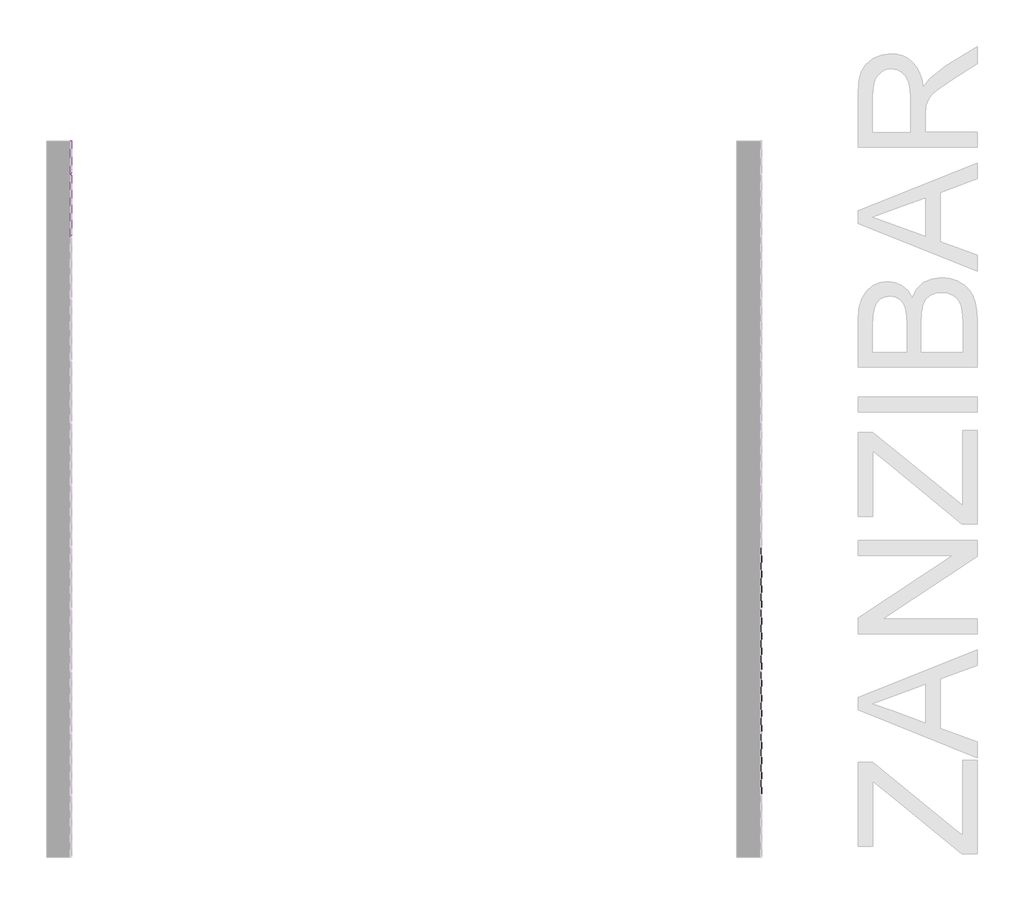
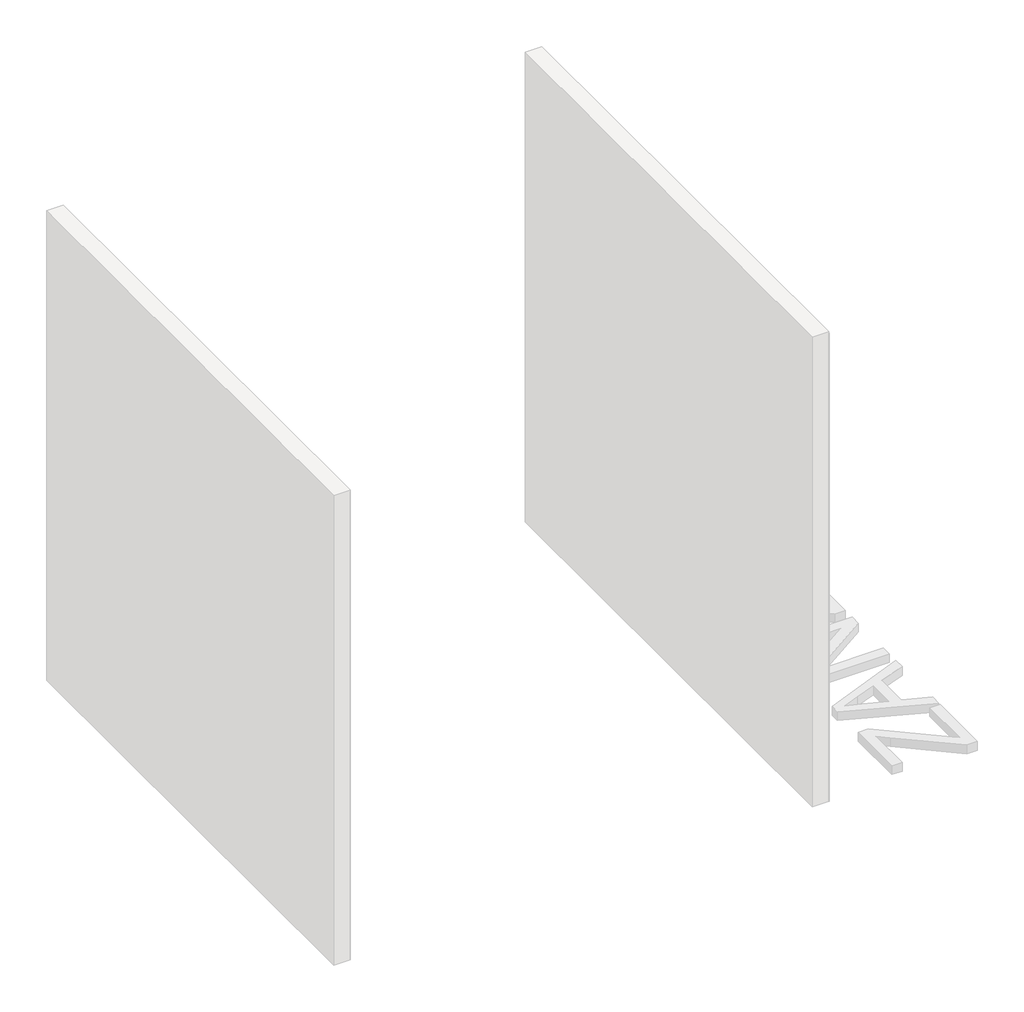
# One storey, part 42 of 45: 147 proxies.
"""IFC4 building model written with IfcOpenShell, lengths in millimetres."""

from ifc_helpers import new_model, si_unit, origin, place, context, project, spatial, transform, mapped, element, save
from components import generic_models_ab0f2c30, generic_models_1527efce

model = new_model("IFC4")

# Units and contexts
model_context = context("Model", 3, world=origin())
ifc_project = project(units=[si_unit("LENGTHUNIT", "METRE", prefix="MILLI")], contexts=[model_context])

# Site, building, storey
site = spatial("IfcSite", under=ifc_project)
building = spatial("IfcBuilding", under=site)
storey = spatial("IfcBuildingStorey", under=building, Name="PORTOBELLO - SHOWROOM", Elevation=0.0)

# Proxies
placement = place(None, origin())
generic_models_shape = generic_models_ab0f2c30(model_context)
element("IfcBuildingElementProxy", 1, Name="PBSHOP - HORIZONTES ZANZIBAR 6,5X23 : ZANZIBAR", ObjectType="PBSHOP - HORIZONTES ZANZIBAR 6,5X23 : ZANZIBAR", at=placement, inside=storey, context=model_context, shape_type="MappedRepresentation", body=[
    mapped(generic_models_shape, transform((69111.8826867, 20114.0864672, 34.5), x_axis=(0.0, 0.0, 1.0), y_axis=(0.0, -1.0, 0.0), z_axis=(1.0, 0.0, 0.0))),
])
element("IfcBuildingElementProxy", 2, Name="PBSHOP - HORIZONTES ZANZIBAR 6,5X23 : ZANZIBAR", ObjectType="PBSHOP - HORIZONTES ZANZIBAR 6,5X23 : ZANZIBAR", at=placement, inside=storey, context=model_context, shape_type="MappedRepresentation", body=[
    mapped(generic_models_shape, transform((69111.8826867, 20348.0864672, 34.5), x_axis=(0.0, 0.0, 1.0), y_axis=(0.0, -1.0, 0.0), z_axis=(1.0, 0.0, 0.0))),
])
element("IfcBuildingElementProxy", 3, Name="PBSHOP - HORIZONTES ZANZIBAR 6,5X23 : ZANZIBAR", ObjectType="PBSHOP - HORIZONTES ZANZIBAR 6,5X23 : ZANZIBAR", at=placement, inside=storey, context=model_context, shape_type="MappedRepresentation", body=[
    mapped(generic_models_shape, transform((69111.8826867, 20582.0864672, 34.5), x_axis=(0.0, 0.0, 1.0), y_axis=(0.0, -1.0, 0.0), z_axis=(1.0, 0.0, 0.0))),
])
element("IfcBuildingElementProxy", 4, Name="PBSHOP - HORIZONTES ZANZIBAR 6,5X23 : ZANZIBAR", ObjectType="PBSHOP - HORIZONTES ZANZIBAR 6,5X23 : ZANZIBAR", at=placement, inside=storey, context=model_context, shape_type="MappedRepresentation", body=[
    mapped(generic_models_shape, transform((69111.8826867, 20816.0864672, 34.5), x_axis=(0.0, 0.0, 1.0), y_axis=(0.0, -1.0, 0.0), z_axis=(1.0, 0.0, 0.0))),
])
element("IfcBuildingElementProxy", 5, Name="PBSHOP - HORIZONTES ZANZIBAR 6,5X23 : ZANZIBAR", ObjectType="PBSHOP - HORIZONTES ZANZIBAR 6,5X23 : ZANZIBAR", at=placement, inside=storey, context=model_context, shape_type="MappedRepresentation", body=[
    mapped(generic_models_shape, transform((69111.8826867, 20114.0864672, 103.5), x_axis=(0.0, 0.0, 1.0), y_axis=(0.0, -1.0, 0.0), z_axis=(1.0, 0.0, 0.0))),
])
element("IfcBuildingElementProxy", 6, Name="PBSHOP - HORIZONTES ZANZIBAR 6,5X23 : ZANZIBAR", ObjectType="PBSHOP - HORIZONTES ZANZIBAR 6,5X23 : ZANZIBAR", at=placement, inside=storey, context=model_context, shape_type="MappedRepresentation", body=[
    mapped(generic_models_shape, transform((69111.8826867, 20348.0864672, 103.5), x_axis=(0.0, 0.0, 1.0), y_axis=(0.0, -1.0, 0.0), z_axis=(1.0, 0.0, 0.0))),
])
element("IfcBuildingElementProxy", 7, Name="PBSHOP - HORIZONTES ZANZIBAR 6,5X23 : ZANZIBAR", ObjectType="PBSHOP - HORIZONTES ZANZIBAR 6,5X23 : ZANZIBAR", at=placement, inside=storey, context=model_context, shape_type="MappedRepresentation", body=[
    mapped(generic_models_shape, transform((69111.8826867, 20582.0864672, 103.5), x_axis=(0.0, 0.0, 1.0), y_axis=(0.0, -1.0, 0.0), z_axis=(1.0, 0.0, 0.0))),
])
element("IfcBuildingElementProxy", 8, Name="PBSHOP - HORIZONTES ZANZIBAR 6,5X23 : ZANZIBAR", ObjectType="PBSHOP - HORIZONTES ZANZIBAR 6,5X23 : ZANZIBAR", at=placement, inside=storey, context=model_context, shape_type="MappedRepresentation", body=[
    mapped(generic_models_shape, transform((69111.8826867, 20816.0864672, 103.5), x_axis=(0.0, 0.0, 1.0), y_axis=(0.0, -1.0, 0.0), z_axis=(1.0, 0.0, 0.0))),
])
element("IfcBuildingElementProxy", 9, Name="PBSHOP - HORIZONTES ZANZIBAR 6,5X23 : ZANZIBAR", ObjectType="PBSHOP - HORIZONTES ZANZIBAR 6,5X23 : ZANZIBAR", at=placement, inside=storey, context=model_context, shape_type="MappedRepresentation", body=[
    mapped(generic_models_shape, transform((69111.8826867, 20114.0864672, 172.5), x_axis=(0.0, 0.0, 1.0), y_axis=(0.0, -1.0, 0.0), z_axis=(1.0, 0.0, 0.0))),
])
element("IfcBuildingElementProxy", 10, Name="PBSHOP - HORIZONTES ZANZIBAR 6,5X23 : ZANZIBAR", ObjectType="PBSHOP - HORIZONTES ZANZIBAR 6,5X23 : ZANZIBAR", at=placement, inside=storey, context=model_context, shape_type="MappedRepresentation", body=[
    mapped(generic_models_shape, transform((69111.8826867, 20348.0864672, 172.5), x_axis=(0.0, 0.0, 1.0), y_axis=(0.0, -1.0, 0.0), z_axis=(1.0, 0.0, 0.0))),
])
element("IfcBuildingElementProxy", 11, Name="PBSHOP - HORIZONTES ZANZIBAR 6,5X23 : ZANZIBAR", ObjectType="PBSHOP - HORIZONTES ZANZIBAR 6,5X23 : ZANZIBAR", at=placement, inside=storey, context=model_context, shape_type="MappedRepresentation", body=[
    mapped(generic_models_shape, transform((69111.8826867, 20582.0864672, 172.5), x_axis=(0.0, 0.0, 1.0), y_axis=(0.0, -1.0, 0.0), z_axis=(1.0, 0.0, 0.0))),
])
element("IfcBuildingElementProxy", 12, Name="PBSHOP - HORIZONTES ZANZIBAR 6,5X23 : ZANZIBAR", ObjectType="PBSHOP - HORIZONTES ZANZIBAR 6,5X23 : ZANZIBAR", at=placement, inside=storey, context=model_context, shape_type="MappedRepresentation", body=[
    mapped(generic_models_shape, transform((69111.8826867, 20816.0864672, 172.5), x_axis=(0.0, 0.0, 1.0), y_axis=(0.0, -1.0, 0.0), z_axis=(1.0, 0.0, 0.0))),
])
element("IfcBuildingElementProxy", 13, Name="PBSHOP - HORIZONTES ZANZIBAR 6,5X23 : ZANZIBAR", ObjectType="PBSHOP - HORIZONTES ZANZIBAR 6,5X23 : ZANZIBAR", at=placement, inside=storey, context=model_context, shape_type="MappedRepresentation", body=[
    mapped(generic_models_shape, transform((69111.8826867, 20114.0864672, 241.5), x_axis=(0.0, 0.0, 1.0), y_axis=(0.0, -1.0, 0.0), z_axis=(1.0, 0.0, 0.0))),
])
element("IfcBuildingElementProxy", 14, Name="PBSHOP - HORIZONTES ZANZIBAR 6,5X23 : ZANZIBAR", ObjectType="PBSHOP - HORIZONTES ZANZIBAR 6,5X23 : ZANZIBAR", at=placement, inside=storey, context=model_context, shape_type="MappedRepresentation", body=[
    mapped(generic_models_shape, transform((69111.8826867, 20348.0864672, 241.5), x_axis=(0.0, 0.0, 1.0), y_axis=(0.0, -1.0, 0.0), z_axis=(1.0, 0.0, 0.0))),
])
element("IfcBuildingElementProxy", 15, Name="PBSHOP - HORIZONTES ZANZIBAR 6,5X23 : ZANZIBAR", ObjectType="PBSHOP - HORIZONTES ZANZIBAR 6,5X23 : ZANZIBAR", at=placement, inside=storey, context=model_context, shape_type="MappedRepresentation", body=[
    mapped(generic_models_shape, transform((69111.8826867, 20582.0864672, 241.5), x_axis=(0.0, 0.0, 1.0), y_axis=(0.0, -1.0, 0.0), z_axis=(1.0, 0.0, 0.0))),
])
element("IfcBuildingElementProxy", 16, Name="PBSHOP - HORIZONTES ZANZIBAR 6,5X23 : ZANZIBAR", ObjectType="PBSHOP - HORIZONTES ZANZIBAR 6,5X23 : ZANZIBAR", at=placement, inside=storey, context=model_context, shape_type="MappedRepresentation", body=[
    mapped(generic_models_shape, transform((69111.8826867, 20816.0864672, 241.5), x_axis=(0.0, 0.0, 1.0), y_axis=(0.0, -1.0, 0.0), z_axis=(1.0, 0.0, 0.0))),
])
element("IfcBuildingElementProxy", 17, Name="PBSHOP - HORIZONTES ZANZIBAR 6,5X23 : ZANZIBAR", ObjectType="PBSHOP - HORIZONTES ZANZIBAR 6,5X23 : ZANZIBAR", at=placement, inside=storey, context=model_context, shape_type="MappedRepresentation", body=[
    mapped(generic_models_shape, transform((69111.8826867, 20114.0864672, 310.5), x_axis=(0.0, 0.0, 1.0), y_axis=(0.0, -1.0, 0.0), z_axis=(1.0, 0.0, 0.0))),
])
element("IfcBuildingElementProxy", 18, Name="PBSHOP - HORIZONTES ZANZIBAR 6,5X23 : ZANZIBAR", ObjectType="PBSHOP - HORIZONTES ZANZIBAR 6,5X23 : ZANZIBAR", at=placement, inside=storey, context=model_context, shape_type="MappedRepresentation", body=[
    mapped(generic_models_shape, transform((69111.8826867, 20348.0864672, 310.5), x_axis=(0.0, 0.0, 1.0), y_axis=(0.0, -1.0, 0.0), z_axis=(1.0, 0.0, 0.0))),
])
element("IfcBuildingElementProxy", 19, Name="PBSHOP - HORIZONTES ZANZIBAR 6,5X23 : ZANZIBAR", ObjectType="PBSHOP - HORIZONTES ZANZIBAR 6,5X23 : ZANZIBAR", at=placement, inside=storey, context=model_context, shape_type="MappedRepresentation", body=[
    mapped(generic_models_shape, transform((69111.8826867, 20582.0864672, 310.5), x_axis=(0.0, 0.0, 1.0), y_axis=(0.0, -1.0, 0.0), z_axis=(1.0, 0.0, 0.0))),
])
element("IfcBuildingElementProxy", 20, Name="PBSHOP - HORIZONTES ZANZIBAR 6,5X23 : ZANZIBAR", ObjectType="PBSHOP - HORIZONTES ZANZIBAR 6,5X23 : ZANZIBAR", at=placement, inside=storey, context=model_context, shape_type="MappedRepresentation", body=[
    mapped(generic_models_shape, transform((69111.8826867, 20816.0864672, 310.5), x_axis=(0.0, 0.0, 1.0), y_axis=(0.0, -1.0, 0.0), z_axis=(1.0, 0.0, 0.0))),
])
element("IfcBuildingElementProxy", 21, Name="PBSHOP - HORIZONTES ZANZIBAR 6,5X23 : ZANZIBAR", ObjectType="PBSHOP - HORIZONTES ZANZIBAR 6,5X23 : ZANZIBAR", at=placement, inside=storey, context=model_context, shape_type="MappedRepresentation", body=[
    mapped(generic_models_shape, transform((69111.8826867, 20114.0864672, 379.5), x_axis=(0.0, 0.0, 1.0), y_axis=(0.0, -1.0, 0.0), z_axis=(1.0, 0.0, 0.0))),
])
element("IfcBuildingElementProxy", 22, Name="PBSHOP - HORIZONTES ZANZIBAR 6,5X23 : ZANZIBAR", ObjectType="PBSHOP - HORIZONTES ZANZIBAR 6,5X23 : ZANZIBAR", at=placement, inside=storey, context=model_context, shape_type="MappedRepresentation", body=[
    mapped(generic_models_shape, transform((69111.8826867, 20348.0864672, 379.5), x_axis=(0.0, 0.0, 1.0), y_axis=(0.0, -1.0, 0.0), z_axis=(1.0, 0.0, 0.0))),
])
element("IfcBuildingElementProxy", 23, Name="PBSHOP - HORIZONTES ZANZIBAR 6,5X23 : ZANZIBAR", ObjectType="PBSHOP - HORIZONTES ZANZIBAR 6,5X23 : ZANZIBAR", at=placement, inside=storey, context=model_context, shape_type="MappedRepresentation", body=[
    mapped(generic_models_shape, transform((69111.8826867, 20582.0864672, 379.5), x_axis=(0.0, 0.0, 1.0), y_axis=(0.0, -1.0, 0.0), z_axis=(1.0, 0.0, 0.0))),
])
element("IfcBuildingElementProxy", 24, Name="PBSHOP - HORIZONTES ZANZIBAR 6,5X23 : ZANZIBAR", ObjectType="PBSHOP - HORIZONTES ZANZIBAR 6,5X23 : ZANZIBAR", at=placement, inside=storey, context=model_context, shape_type="MappedRepresentation", body=[
    mapped(generic_models_shape, transform((69111.8826867, 20816.0864672, 379.5), x_axis=(0.0, 0.0, 1.0), y_axis=(0.0, -1.0, 0.0), z_axis=(1.0, 0.0, 0.0))),
])
element("IfcBuildingElementProxy", 25, Name="PBSHOP - HORIZONTES ZANZIBAR 6,5X23 : ZANZIBAR", ObjectType="PBSHOP - HORIZONTES ZANZIBAR 6,5X23 : ZANZIBAR", at=placement, inside=storey, context=model_context, shape_type="MappedRepresentation", body=[
    mapped(generic_models_shape, transform((69111.8826867, 20114.0864672, 448.5), x_axis=(0.0, 0.0, 1.0), y_axis=(0.0, -1.0, 0.0), z_axis=(1.0, 0.0, 0.0))),
])
element("IfcBuildingElementProxy", 26, Name="PBSHOP - HORIZONTES ZANZIBAR 6,5X23 : ZANZIBAR", ObjectType="PBSHOP - HORIZONTES ZANZIBAR 6,5X23 : ZANZIBAR", at=placement, inside=storey, context=model_context, shape_type="MappedRepresentation", body=[
    mapped(generic_models_shape, transform((69111.8826867, 20348.0864672, 448.5), x_axis=(0.0, 0.0, 1.0), y_axis=(0.0, -1.0, 0.0), z_axis=(1.0, 0.0, 0.0))),
])
element("IfcBuildingElementProxy", 27, Name="PBSHOP - HORIZONTES ZANZIBAR 6,5X23 : ZANZIBAR", ObjectType="PBSHOP - HORIZONTES ZANZIBAR 6,5X23 : ZANZIBAR", at=placement, inside=storey, context=model_context, shape_type="MappedRepresentation", body=[
    mapped(generic_models_shape, transform((69111.8826867, 20582.0864672, 448.5), x_axis=(0.0, 0.0, 1.0), y_axis=(0.0, -1.0, 0.0), z_axis=(1.0, 0.0, 0.0))),
])
element("IfcBuildingElementProxy", 28, Name="PBSHOP - HORIZONTES ZANZIBAR 6,5X23 : ZANZIBAR", ObjectType="PBSHOP - HORIZONTES ZANZIBAR 6,5X23 : ZANZIBAR", at=placement, inside=storey, context=model_context, shape_type="MappedRepresentation", body=[
    mapped(generic_models_shape, transform((69111.8826867, 20816.0864672, 448.5), x_axis=(0.0, 0.0, 1.0), y_axis=(0.0, -1.0, 0.0), z_axis=(1.0, 0.0, 0.0))),
])
element("IfcBuildingElementProxy", 29, Name="PBSHOP - HORIZONTES ZANZIBAR 6,5X23 : ZANZIBAR", ObjectType="PBSHOP - HORIZONTES ZANZIBAR 6,5X23 : ZANZIBAR", at=placement, inside=storey, context=model_context, shape_type="MappedRepresentation", body=[
    mapped(generic_models_shape, transform((69111.8826867, 20114.0864672, 517.5), x_axis=(0.0, 0.0, 1.0), y_axis=(0.0, -1.0, 0.0), z_axis=(1.0, 0.0, 0.0))),
])
element("IfcBuildingElementProxy", 30, Name="PBSHOP - HORIZONTES ZANZIBAR 6,5X23 : ZANZIBAR", ObjectType="PBSHOP - HORIZONTES ZANZIBAR 6,5X23 : ZANZIBAR", at=placement, inside=storey, context=model_context, shape_type="MappedRepresentation", body=[
    mapped(generic_models_shape, transform((69111.8826867, 20348.0864672, 517.5), x_axis=(0.0, 0.0, 1.0), y_axis=(0.0, -1.0, 0.0), z_axis=(1.0, 0.0, 0.0))),
])
element("IfcBuildingElementProxy", 31, Name="PBSHOP - HORIZONTES ZANZIBAR 6,5X23 : ZANZIBAR", ObjectType="PBSHOP - HORIZONTES ZANZIBAR 6,5X23 : ZANZIBAR", at=placement, inside=storey, context=model_context, shape_type="MappedRepresentation", body=[
    mapped(generic_models_shape, transform((69111.8826867, 20582.0864672, 517.5), x_axis=(0.0, 0.0, 1.0), y_axis=(0.0, -1.0, 0.0), z_axis=(1.0, 0.0, 0.0))),
])
element("IfcBuildingElementProxy", 32, Name="PBSHOP - HORIZONTES ZANZIBAR 6,5X23 : ZANZIBAR", ObjectType="PBSHOP - HORIZONTES ZANZIBAR 6,5X23 : ZANZIBAR", at=placement, inside=storey, context=model_context, shape_type="MappedRepresentation", body=[
    mapped(generic_models_shape, transform((69111.8826867, 20816.0864672, 517.5), x_axis=(0.0, 0.0, 1.0), y_axis=(0.0, -1.0, 0.0), z_axis=(1.0, 0.0, 0.0))),
])
element("IfcBuildingElementProxy", 33, Name="PBSHOP - HORIZONTES ZANZIBAR 6,5X23 : ZANZIBAR", ObjectType="PBSHOP - HORIZONTES ZANZIBAR 6,5X23 : ZANZIBAR", at=placement, inside=storey, context=model_context, shape_type="MappedRepresentation", body=[
    mapped(generic_models_shape, transform((69111.8826867, 20114.0864672, 586.5), x_axis=(0.0, 0.0, 1.0), y_axis=(0.0, -1.0, 0.0), z_axis=(1.0, 0.0, 0.0))),
])
element("IfcBuildingElementProxy", 34, Name="PBSHOP - HORIZONTES ZANZIBAR 6,5X23 : ZANZIBAR", ObjectType="PBSHOP - HORIZONTES ZANZIBAR 6,5X23 : ZANZIBAR", at=placement, inside=storey, context=model_context, shape_type="MappedRepresentation", body=[
    mapped(generic_models_shape, transform((69111.8826867, 20348.0864672, 586.5), x_axis=(0.0, 0.0, 1.0), y_axis=(0.0, -1.0, 0.0), z_axis=(1.0, 0.0, 0.0))),
])
element("IfcBuildingElementProxy", 35, Name="PBSHOP - HORIZONTES ZANZIBAR 6,5X23 : ZANZIBAR", ObjectType="PBSHOP - HORIZONTES ZANZIBAR 6,5X23 : ZANZIBAR", at=placement, inside=storey, context=model_context, shape_type="MappedRepresentation", body=[
    mapped(generic_models_shape, transform((69111.8826867, 20582.0864672, 586.5), x_axis=(0.0, 0.0, 1.0), y_axis=(0.0, -1.0, 0.0), z_axis=(1.0, 0.0, 0.0))),
])
element("IfcBuildingElementProxy", 36, Name="PBSHOP - HORIZONTES ZANZIBAR 6,5X23 : ZANZIBAR", ObjectType="PBSHOP - HORIZONTES ZANZIBAR 6,5X23 : ZANZIBAR", at=placement, inside=storey, context=model_context, shape_type="MappedRepresentation", body=[
    mapped(generic_models_shape, transform((69111.8826867, 20816.0864672, 586.5), x_axis=(0.0, 0.0, 1.0), y_axis=(0.0, -1.0, 0.0), z_axis=(1.0, 0.0, 0.0))),
])
element("IfcBuildingElementProxy", 37, Name="PBSHOP - HORIZONTES ZANZIBAR 6,5X23 : ZANZIBAR", ObjectType="PBSHOP - HORIZONTES ZANZIBAR 6,5X23 : ZANZIBAR", at=placement, inside=storey, context=model_context, shape_type="MappedRepresentation", body=[
    mapped(generic_models_shape, transform((69111.8826867, 20114.0864672, 655.5), x_axis=(0.0, 0.0, 1.0), y_axis=(0.0, -1.0, 0.0), z_axis=(1.0, 0.0, 0.0))),
])
element("IfcBuildingElementProxy", 38, Name="PBSHOP - HORIZONTES ZANZIBAR 6,5X23 : ZANZIBAR", ObjectType="PBSHOP - HORIZONTES ZANZIBAR 6,5X23 : ZANZIBAR", at=placement, inside=storey, context=model_context, shape_type="MappedRepresentation", body=[
    mapped(generic_models_shape, transform((69111.8826867, 20348.0864672, 655.5), x_axis=(0.0, 0.0, 1.0), y_axis=(0.0, -1.0, 0.0), z_axis=(1.0, 0.0, 0.0))),
])
element("IfcBuildingElementProxy", 39, Name="PBSHOP - HORIZONTES ZANZIBAR 6,5X23 : ZANZIBAR", ObjectType="PBSHOP - HORIZONTES ZANZIBAR 6,5X23 : ZANZIBAR", at=placement, inside=storey, context=model_context, shape_type="MappedRepresentation", body=[
    mapped(generic_models_shape, transform((69111.8826867, 20582.0864672, 655.5), x_axis=(0.0, 0.0, 1.0), y_axis=(0.0, -1.0, 0.0), z_axis=(1.0, 0.0, 0.0))),
])
element("IfcBuildingElementProxy", 40, Name="PBSHOP - HORIZONTES ZANZIBAR 6,5X23 : ZANZIBAR", ObjectType="PBSHOP - HORIZONTES ZANZIBAR 6,5X23 : ZANZIBAR", at=placement, inside=storey, context=model_context, shape_type="MappedRepresentation", body=[
    mapped(generic_models_shape, transform((69111.8826867, 20816.0864672, 655.5), x_axis=(0.0, 0.0, 1.0), y_axis=(0.0, -1.0, 0.0), z_axis=(1.0, 0.0, 0.0))),
])
element("IfcBuildingElementProxy", 41, Name="PBSHOP - HORIZONTES ZANZIBAR 6,5X23 : ZANZIBAR", ObjectType="PBSHOP - HORIZONTES ZANZIBAR 6,5X23 : ZANZIBAR", at=placement, inside=storey, context=model_context, shape_type="MappedRepresentation", body=[
    mapped(generic_models_shape, transform((69111.8826867, 20114.0864672, 724.5), x_axis=(0.0, 0.0, 1.0), y_axis=(0.0, -1.0, 0.0), z_axis=(1.0, 0.0, 0.0))),
])
element("IfcBuildingElementProxy", 42, Name="PBSHOP - HORIZONTES ZANZIBAR 6,5X23 : ZANZIBAR", ObjectType="PBSHOP - HORIZONTES ZANZIBAR 6,5X23 : ZANZIBAR", at=placement, inside=storey, context=model_context, shape_type="MappedRepresentation", body=[
    mapped(generic_models_shape, transform((69111.8826867, 20348.0864672, 724.5), x_axis=(0.0, 0.0, 1.0), y_axis=(0.0, -1.0, 0.0), z_axis=(1.0, 0.0, 0.0))),
])
element("IfcBuildingElementProxy", 43, Name="PBSHOP - HORIZONTES ZANZIBAR 6,5X23 : ZANZIBAR", ObjectType="PBSHOP - HORIZONTES ZANZIBAR 6,5X23 : ZANZIBAR", at=placement, inside=storey, context=model_context, shape_type="MappedRepresentation", body=[
    mapped(generic_models_shape, transform((69111.8826867, 20582.0864672, 724.5), x_axis=(0.0, 0.0, 1.0), y_axis=(0.0, -1.0, 0.0), z_axis=(1.0, 0.0, 0.0))),
])
element("IfcBuildingElementProxy", 44, Name="PBSHOP - HORIZONTES ZANZIBAR 6,5X23 : ZANZIBAR", ObjectType="PBSHOP - HORIZONTES ZANZIBAR 6,5X23 : ZANZIBAR", at=placement, inside=storey, context=model_context, shape_type="MappedRepresentation", body=[
    mapped(generic_models_shape, transform((69111.8826867, 20816.0864672, 724.5), x_axis=(0.0, 0.0, 1.0), y_axis=(0.0, -1.0, 0.0), z_axis=(1.0, 0.0, 0.0))),
])
element("IfcBuildingElementProxy", 45, Name="PBSHOP - HORIZONTES ZANZIBAR 6,5X23 : ZANZIBAR", ObjectType="PBSHOP - HORIZONTES ZANZIBAR 6,5X23 : ZANZIBAR", at=placement, inside=storey, context=model_context, shape_type="MappedRepresentation", body=[
    mapped(generic_models_shape, transform((69111.8826867, 20114.0864672, 793.5), x_axis=(0.0, 0.0, 1.0), y_axis=(0.0, -1.0, 0.0), z_axis=(1.0, 0.0, 0.0))),
])
element("IfcBuildingElementProxy", 46, Name="PBSHOP - HORIZONTES ZANZIBAR 6,5X23 : ZANZIBAR", ObjectType="PBSHOP - HORIZONTES ZANZIBAR 6,5X23 : ZANZIBAR", at=placement, inside=storey, context=model_context, shape_type="MappedRepresentation", body=[
    mapped(generic_models_shape, transform((69111.8826867, 20348.0864672, 793.5), x_axis=(0.0, 0.0, 1.0), y_axis=(0.0, -1.0, 0.0), z_axis=(1.0, 0.0, 0.0))),
])
element("IfcBuildingElementProxy", 47, Name="PBSHOP - HORIZONTES ZANZIBAR 6,5X23 : ZANZIBAR", ObjectType="PBSHOP - HORIZONTES ZANZIBAR 6,5X23 : ZANZIBAR", at=placement, inside=storey, context=model_context, shape_type="MappedRepresentation", body=[
    mapped(generic_models_shape, transform((69111.8826867, 20582.0864672, 793.5), x_axis=(0.0, 0.0, 1.0), y_axis=(0.0, -1.0, 0.0), z_axis=(1.0, 0.0, 0.0))),
])
element("IfcBuildingElementProxy", 48, Name="PBSHOP - HORIZONTES ZANZIBAR 6,5X23 : ZANZIBAR", ObjectType="PBSHOP - HORIZONTES ZANZIBAR 6,5X23 : ZANZIBAR", at=placement, inside=storey, context=model_context, shape_type="MappedRepresentation", body=[
    mapped(generic_models_shape, transform((69111.8826867, 20816.0864672, 793.5), x_axis=(0.0, 0.0, 1.0), y_axis=(0.0, -1.0, 0.0), z_axis=(1.0, 0.0, 0.0))),
])
element("IfcBuildingElementProxy", 49, Name="PBSHOP - HORIZONTES ZANZIBAR 6,5X23 : ZANZIBAR", ObjectType="PBSHOP - HORIZONTES ZANZIBAR 6,5X23 : ZANZIBAR", at=placement, inside=storey, context=model_context, shape_type="MappedRepresentation", body=[
    mapped(generic_models_shape, transform((69111.8826867, 20114.0864672, 862.5), x_axis=(0.0, 0.0, 1.0), y_axis=(0.0, -1.0, 0.0), z_axis=(1.0, 0.0, 0.0))),
])
element("IfcBuildingElementProxy", 50, Name="PBSHOP - HORIZONTES ZANZIBAR 6,5X23 : ZANZIBAR", ObjectType="PBSHOP - HORIZONTES ZANZIBAR 6,5X23 : ZANZIBAR", at=placement, inside=storey, context=model_context, shape_type="MappedRepresentation", body=[
    mapped(generic_models_shape, transform((69111.8826867, 20348.0864672, 862.5), x_axis=(0.0, 0.0, 1.0), y_axis=(0.0, -1.0, 0.0), z_axis=(1.0, 0.0, 0.0))),
])
element("IfcBuildingElementProxy", 51, Name="PBSHOP - HORIZONTES ZANZIBAR 6,5X23 : ZANZIBAR", ObjectType="PBSHOP - HORIZONTES ZANZIBAR 6,5X23 : ZANZIBAR", at=placement, inside=storey, context=model_context, shape_type="MappedRepresentation", body=[
    mapped(generic_models_shape, transform((69111.8826867, 20582.0864672, 862.5), x_axis=(0.0, 0.0, 1.0), y_axis=(0.0, -1.0, 0.0), z_axis=(1.0, 0.0, 0.0))),
])
element("IfcBuildingElementProxy", 52, Name="PBSHOP - HORIZONTES ZANZIBAR 6,5X23 : ZANZIBAR", ObjectType="PBSHOP - HORIZONTES ZANZIBAR 6,5X23 : ZANZIBAR", at=placement, inside=storey, context=model_context, shape_type="MappedRepresentation", body=[
    mapped(generic_models_shape, transform((69111.8826867, 20816.0864672, 862.5), x_axis=(0.0, 0.0, 1.0), y_axis=(0.0, -1.0, 0.0), z_axis=(1.0, 0.0, 0.0))),
])
element("IfcBuildingElementProxy", 53, Name="PBSHOP - HORIZONTES ZANZIBAR 6,5X23 : ZANZIBAR", ObjectType="PBSHOP - HORIZONTES ZANZIBAR 6,5X23 : ZANZIBAR", at=placement, inside=storey, context=model_context, shape_type="MappedRepresentation", body=[
    mapped(generic_models_shape, transform((69111.8826867, 20114.0864672, 931.5), x_axis=(0.0, 0.0, 1.0), y_axis=(0.0, -1.0, 0.0), z_axis=(1.0, 0.0, 0.0))),
])
element("IfcBuildingElementProxy", 54, Name="PBSHOP - HORIZONTES ZANZIBAR 6,5X23 : ZANZIBAR", ObjectType="PBSHOP - HORIZONTES ZANZIBAR 6,5X23 : ZANZIBAR", at=placement, inside=storey, context=model_context, shape_type="MappedRepresentation", body=[
    mapped(generic_models_shape, transform((69111.8826867, 20348.0864672, 931.5), x_axis=(0.0, 0.0, 1.0), y_axis=(0.0, -1.0, 0.0), z_axis=(1.0, 0.0, 0.0))),
])
element("IfcBuildingElementProxy", 55, Name="PBSHOP - HORIZONTES ZANZIBAR 6,5X23 : ZANZIBAR", ObjectType="PBSHOP - HORIZONTES ZANZIBAR 6,5X23 : ZANZIBAR", at=placement, inside=storey, context=model_context, shape_type="MappedRepresentation", body=[
    mapped(generic_models_shape, transform((69111.8826867, 20582.0864672, 931.5), x_axis=(0.0, 0.0, 1.0), y_axis=(0.0, -1.0, 0.0), z_axis=(1.0, 0.0, 0.0))),
])
element("IfcBuildingElementProxy", 56, Name="PBSHOP - HORIZONTES ZANZIBAR 6,5X23 : ZANZIBAR", ObjectType="PBSHOP - HORIZONTES ZANZIBAR 6,5X23 : ZANZIBAR", at=placement, inside=storey, context=model_context, shape_type="MappedRepresentation", body=[
    mapped(generic_models_shape, transform((69111.8826867, 20816.0864672, 931.5), x_axis=(0.0, 0.0, 1.0), y_axis=(0.0, -1.0, 0.0), z_axis=(1.0, 0.0, 0.0))),
])
element("IfcBuildingElementProxy", 57, Name="PBSHOP - HORIZONTES ZANZIBAR 6,5X23 : ZANZIBAR", ObjectType="PBSHOP - HORIZONTES ZANZIBAR 6,5X23 : ZANZIBAR", at=placement, inside=storey, context=model_context, shape_type="MappedRepresentation", body=[
    mapped(generic_models_shape, transform((69111.8826867, 20114.0864672, 1000.5), x_axis=(0.0, 0.0, 1.0), y_axis=(0.0, -1.0, 0.0), z_axis=(1.0, 0.0, 0.0))),
])
element("IfcBuildingElementProxy", 58, Name="PBSHOP - HORIZONTES ZANZIBAR 6,5X23 : ZANZIBAR", ObjectType="PBSHOP - HORIZONTES ZANZIBAR 6,5X23 : ZANZIBAR", at=placement, inside=storey, context=model_context, shape_type="MappedRepresentation", body=[
    mapped(generic_models_shape, transform((69111.8826867, 20348.0864672, 1000.5), x_axis=(0.0, 0.0, 1.0), y_axis=(0.0, -1.0, 0.0), z_axis=(1.0, 0.0, 0.0))),
])
element("IfcBuildingElementProxy", 59, Name="PBSHOP - HORIZONTES ZANZIBAR 6,5X23 : ZANZIBAR", ObjectType="PBSHOP - HORIZONTES ZANZIBAR 6,5X23 : ZANZIBAR", at=placement, inside=storey, context=model_context, shape_type="MappedRepresentation", body=[
    mapped(generic_models_shape, transform((69111.8826867, 20582.0864672, 1000.5), x_axis=(0.0, 0.0, 1.0), y_axis=(0.0, -1.0, 0.0), z_axis=(1.0, 0.0, 0.0))),
])
element("IfcBuildingElementProxy", 60, Name="PBSHOP - HORIZONTES ZANZIBAR 6,5X23 : ZANZIBAR", ObjectType="PBSHOP - HORIZONTES ZANZIBAR 6,5X23 : ZANZIBAR", at=placement, inside=storey, context=model_context, shape_type="MappedRepresentation", body=[
    mapped(generic_models_shape, transform((69111.8826867, 20816.0864672, 1000.5), x_axis=(0.0, 0.0, 1.0), y_axis=(0.0, -1.0, 0.0), z_axis=(1.0, 0.0, 0.0))),
])
element("IfcBuildingElementProxy", 61, Name="PBSHOP - HORIZONTES ZANZIBAR 6,5X23 : ZANZIBAR", ObjectType="PBSHOP - HORIZONTES ZANZIBAR 6,5X23 : ZANZIBAR", at=placement, inside=storey, context=model_context, shape_type="MappedRepresentation", body=[
    mapped(generic_models_shape, transform((69111.8826867, 20114.0864672, 1069.5), x_axis=(0.0, 0.0, 1.0), y_axis=(0.0, -1.0, 0.0), z_axis=(1.0, 0.0, 0.0))),
])
element("IfcBuildingElementProxy", 62, Name="PBSHOP - HORIZONTES ZANZIBAR 6,5X23 : ZANZIBAR", ObjectType="PBSHOP - HORIZONTES ZANZIBAR 6,5X23 : ZANZIBAR", at=placement, inside=storey, context=model_context, shape_type="MappedRepresentation", body=[
    mapped(generic_models_shape, transform((69111.8826867, 20348.0864672, 1069.5), x_axis=(0.0, 0.0, 1.0), y_axis=(0.0, -1.0, 0.0), z_axis=(1.0, 0.0, 0.0))),
])
element("IfcBuildingElementProxy", 63, Name="PBSHOP - HORIZONTES ZANZIBAR 6,5X23 : ZANZIBAR", ObjectType="PBSHOP - HORIZONTES ZANZIBAR 6,5X23 : ZANZIBAR", at=placement, inside=storey, context=model_context, shape_type="MappedRepresentation", body=[
    mapped(generic_models_shape, transform((69111.8826867, 20582.0864672, 1069.5), x_axis=(0.0, 0.0, 1.0), y_axis=(0.0, -1.0, 0.0), z_axis=(1.0, 0.0, 0.0))),
])
element("IfcBuildingElementProxy", 64, Name="PBSHOP - HORIZONTES ZANZIBAR 6,5X23 : ZANZIBAR", ObjectType="PBSHOP - HORIZONTES ZANZIBAR 6,5X23 : ZANZIBAR", at=placement, inside=storey, context=model_context, shape_type="MappedRepresentation", body=[
    mapped(generic_models_shape, transform((69111.8826867, 20816.0864672, 1069.5), x_axis=(0.0, 0.0, 1.0), y_axis=(0.0, -1.0, 0.0), z_axis=(1.0, 0.0, 0.0))),
])
element("IfcBuildingElementProxy", 65, Name="PBSHOP - HORIZONTES ZANZIBAR 6,5X23 : ZANZIBAR", ObjectType="PBSHOP - HORIZONTES ZANZIBAR 6,5X23 : ZANZIBAR", at=placement, inside=storey, context=model_context, shape_type="MappedRepresentation", body=[
    mapped(generic_models_shape, transform((69111.8826867, 20114.0864672, 1138.5), x_axis=(0.0, 0.0, 1.0), y_axis=(0.0, -1.0, 0.0), z_axis=(1.0, 0.0, 0.0))),
])
element("IfcBuildingElementProxy", 66, Name="PBSHOP - HORIZONTES ZANZIBAR 6,5X23 : ZANZIBAR", ObjectType="PBSHOP - HORIZONTES ZANZIBAR 6,5X23 : ZANZIBAR", at=placement, inside=storey, context=model_context, shape_type="MappedRepresentation", body=[
    mapped(generic_models_shape, transform((69111.8826867, 20348.0864672, 1138.5), x_axis=(0.0, 0.0, 1.0), y_axis=(0.0, -1.0, 0.0), z_axis=(1.0, 0.0, 0.0))),
])
element("IfcBuildingElementProxy", 67, Name="PBSHOP - HORIZONTES ZANZIBAR 6,5X23 : ZANZIBAR", ObjectType="PBSHOP - HORIZONTES ZANZIBAR 6,5X23 : ZANZIBAR", at=placement, inside=storey, context=model_context, shape_type="MappedRepresentation", body=[
    mapped(generic_models_shape, transform((69111.8826867, 20582.0864672, 1138.5), x_axis=(0.0, 0.0, 1.0), y_axis=(0.0, -1.0, 0.0), z_axis=(1.0, 0.0, 0.0))),
])
element("IfcBuildingElementProxy", 68, Name="PBSHOP - HORIZONTES ZANZIBAR 6,5X23 : ZANZIBAR", ObjectType="PBSHOP - HORIZONTES ZANZIBAR 6,5X23 : ZANZIBAR", at=placement, inside=storey, context=model_context, shape_type="MappedRepresentation", body=[
    mapped(generic_models_shape, transform((69111.8826867, 20816.0864672, 1138.5), x_axis=(0.0, 0.0, 1.0), y_axis=(0.0, -1.0, 0.0), z_axis=(1.0, 0.0, 0.0))),
])
element("IfcBuildingElementProxy", 69, Name="PBSHOP - HORIZONTES ZANZIBAR 6,5X23 : ZANZIBAR", ObjectType="PBSHOP - HORIZONTES ZANZIBAR 6,5X23 : ZANZIBAR", at=placement, inside=storey, context=model_context, shape_type="MappedRepresentation", body=[
    mapped(generic_models_shape, transform((69111.8826867, 20114.0864672, 1207.5), x_axis=(0.0, 0.0, 1.0), y_axis=(0.0, -1.0, 0.0), z_axis=(1.0, 0.0, 0.0))),
])
element("IfcBuildingElementProxy", 70, Name="PBSHOP - HORIZONTES ZANZIBAR 6,5X23 : ZANZIBAR", ObjectType="PBSHOP - HORIZONTES ZANZIBAR 6,5X23 : ZANZIBAR", at=placement, inside=storey, context=model_context, shape_type="MappedRepresentation", body=[
    mapped(generic_models_shape, transform((69111.8826867, 20348.0864672, 1207.5), x_axis=(0.0, 0.0, 1.0), y_axis=(0.0, -1.0, 0.0), z_axis=(1.0, 0.0, 0.0))),
])
element("IfcBuildingElementProxy", 71, Name="PBSHOP - HORIZONTES ZANZIBAR 6,5X23 : ZANZIBAR", ObjectType="PBSHOP - HORIZONTES ZANZIBAR 6,5X23 : ZANZIBAR", at=placement, inside=storey, context=model_context, shape_type="MappedRepresentation", body=[
    mapped(generic_models_shape, transform((69111.8826867, 20582.0864672, 1207.5), x_axis=(0.0, 0.0, 1.0), y_axis=(0.0, -1.0, 0.0), z_axis=(1.0, 0.0, 0.0))),
])
element("IfcBuildingElementProxy", 72, Name="PBSHOP - HORIZONTES ZANZIBAR 6,5X23 : ZANZIBAR", ObjectType="PBSHOP - HORIZONTES ZANZIBAR 6,5X23 : ZANZIBAR", at=placement, inside=storey, context=model_context, shape_type="MappedRepresentation", body=[
    mapped(generic_models_shape, transform((69111.8826867, 20816.0864672, 1207.5), x_axis=(0.0, 0.0, 1.0), y_axis=(0.0, -1.0, 0.0), z_axis=(1.0, 0.0, 0.0))),
])
element("IfcBuildingElementProxy", 73, Name="PBSHOP - HORIZONTES ZANZIBAR 6,5X23 : ZANZIBAR", ObjectType="PBSHOP - HORIZONTES ZANZIBAR 6,5X23 : ZANZIBAR", at=placement, inside=storey, context=model_context, shape_type="MappedRepresentation", body=[
    mapped(generic_models_shape, transform((69111.8826867, 20114.0864672, 1276.5), x_axis=(0.0, 0.0, 1.0), y_axis=(0.0, -1.0, 0.0), z_axis=(1.0, 0.0, 0.0))),
])
element("IfcBuildingElementProxy", 74, Name="PBSHOP - HORIZONTES ZANZIBAR 6,5X23 : ZANZIBAR", ObjectType="PBSHOP - HORIZONTES ZANZIBAR 6,5X23 : ZANZIBAR", at=placement, inside=storey, context=model_context, shape_type="MappedRepresentation", body=[
    mapped(generic_models_shape, transform((69111.8826867, 20348.0864672, 1276.5), x_axis=(0.0, 0.0, 1.0), y_axis=(0.0, -1.0, 0.0), z_axis=(1.0, 0.0, 0.0))),
])
element("IfcBuildingElementProxy", 75, Name="PBSHOP - HORIZONTES ZANZIBAR 6,5X23 : ZANZIBAR", ObjectType="PBSHOP - HORIZONTES ZANZIBAR 6,5X23 : ZANZIBAR", at=placement, inside=storey, context=model_context, shape_type="MappedRepresentation", body=[
    mapped(generic_models_shape, transform((69111.8826867, 20582.0864672, 1276.5), x_axis=(0.0, 0.0, 1.0), y_axis=(0.0, -1.0, 0.0), z_axis=(1.0, 0.0, 0.0))),
])
element("IfcBuildingElementProxy", 76, Name="PBSHOP - HORIZONTES ZANZIBAR 6,5X23 : ZANZIBAR", ObjectType="PBSHOP - HORIZONTES ZANZIBAR 6,5X23 : ZANZIBAR", at=placement, inside=storey, context=model_context, shape_type="MappedRepresentation", body=[
    mapped(generic_models_shape, transform((69111.8826867, 20816.0864672, 1276.5), x_axis=(0.0, 0.0, 1.0), y_axis=(0.0, -1.0, 0.0), z_axis=(1.0, 0.0, 0.0))),
])
element("IfcBuildingElementProxy", 77, Name="PBSHOP - HORIZONTES ZANZIBAR 6,5X23 : ZANZIBAR", ObjectType="PBSHOP - HORIZONTES ZANZIBAR 6,5X23 : ZANZIBAR", at=placement, inside=storey, context=model_context, shape_type="MappedRepresentation", body=[
    mapped(generic_models_shape, transform((69111.8826867, 20114.0864672, 1345.5), x_axis=(0.0, 0.0, 1.0), y_axis=(0.0, -1.0, 0.0), z_axis=(1.0, 0.0, 0.0))),
])
element("IfcBuildingElementProxy", 78, Name="PBSHOP - HORIZONTES ZANZIBAR 6,5X23 : ZANZIBAR", ObjectType="PBSHOP - HORIZONTES ZANZIBAR 6,5X23 : ZANZIBAR", at=placement, inside=storey, context=model_context, shape_type="MappedRepresentation", body=[
    mapped(generic_models_shape, transform((69111.8826867, 20348.0864672, 1345.5), x_axis=(0.0, 0.0, 1.0), y_axis=(0.0, -1.0, 0.0), z_axis=(1.0, 0.0, 0.0))),
])
element("IfcBuildingElementProxy", 79, Name="PBSHOP - HORIZONTES ZANZIBAR 6,5X23 : ZANZIBAR", ObjectType="PBSHOP - HORIZONTES ZANZIBAR 6,5X23 : ZANZIBAR", at=placement, inside=storey, context=model_context, shape_type="MappedRepresentation", body=[
    mapped(generic_models_shape, transform((69111.8826867, 20582.0864672, 1345.5), x_axis=(0.0, 0.0, 1.0), y_axis=(0.0, -1.0, 0.0), z_axis=(1.0, 0.0, 0.0))),
])
element("IfcBuildingElementProxy", 80, Name="PBSHOP - HORIZONTES ZANZIBAR 6,5X23 : ZANZIBAR", ObjectType="PBSHOP - HORIZONTES ZANZIBAR 6,5X23 : ZANZIBAR", at=placement, inside=storey, context=model_context, shape_type="MappedRepresentation", body=[
    mapped(generic_models_shape, transform((69111.8826867, 20816.0864672, 1345.5), x_axis=(0.0, 0.0, 1.0), y_axis=(0.0, -1.0, 0.0), z_axis=(1.0, 0.0, 0.0))),
])
element("IfcBuildingElementProxy", 81, Name="PBSHOP - HORIZONTES ZANZIBAR 6,5X23 : ZANZIBAR", ObjectType="PBSHOP - HORIZONTES ZANZIBAR 6,5X23 : ZANZIBAR", at=placement, inside=storey, context=model_context, shape_type="MappedRepresentation", body=[
    mapped(generic_models_shape, transform((69111.8826867, 20114.0864672, 1414.5), x_axis=(0.0, 0.0, 1.0), y_axis=(0.0, -1.0, 0.0), z_axis=(1.0, 0.0, 0.0))),
])
element("IfcBuildingElementProxy", 82, Name="PBSHOP - HORIZONTES ZANZIBAR 6,5X23 : ZANZIBAR", ObjectType="PBSHOP - HORIZONTES ZANZIBAR 6,5X23 : ZANZIBAR", at=placement, inside=storey, context=model_context, shape_type="MappedRepresentation", body=[
    mapped(generic_models_shape, transform((69111.8826867, 20348.0864672, 1414.5), x_axis=(0.0, 0.0, 1.0), y_axis=(0.0, -1.0, 0.0), z_axis=(1.0, 0.0, 0.0))),
])
element("IfcBuildingElementProxy", 83, Name="PBSHOP - HORIZONTES ZANZIBAR 6,5X23 : ZANZIBAR", ObjectType="PBSHOP - HORIZONTES ZANZIBAR 6,5X23 : ZANZIBAR", at=placement, inside=storey, context=model_context, shape_type="MappedRepresentation", body=[
    mapped(generic_models_shape, transform((69111.8826867, 20582.0864672, 1414.5), x_axis=(0.0, 0.0, 1.0), y_axis=(0.0, -1.0, 0.0), z_axis=(1.0, 0.0, 0.0))),
])
element("IfcBuildingElementProxy", 84, Name="PBSHOP - HORIZONTES ZANZIBAR 6,5X23 : ZANZIBAR", ObjectType="PBSHOP - HORIZONTES ZANZIBAR 6,5X23 : ZANZIBAR", at=placement, inside=storey, context=model_context, shape_type="MappedRepresentation", body=[
    mapped(generic_models_shape, transform((69111.8826867, 20816.0864672, 1414.5), x_axis=(0.0, 0.0, 1.0), y_axis=(0.0, -1.0, 0.0), z_axis=(1.0, 0.0, 0.0))),
])
element("IfcBuildingElementProxy", 85, Name="PBSHOP - HORIZONTES ZANZIBAR 6,5X23 : ZANZIBAR", ObjectType="PBSHOP - HORIZONTES ZANZIBAR 6,5X23 : ZANZIBAR", at=placement, inside=storey, context=model_context, shape_type="MappedRepresentation", body=[
    mapped(generic_models_shape, transform((69111.8826867, 20114.0864672, 1483.5), x_axis=(0.0, 0.0, 1.0), y_axis=(0.0, -1.0, 0.0), z_axis=(1.0, 0.0, 0.0))),
])
element("IfcBuildingElementProxy", 86, Name="PBSHOP - HORIZONTES ZANZIBAR 6,5X23 : ZANZIBAR", ObjectType="PBSHOP - HORIZONTES ZANZIBAR 6,5X23 : ZANZIBAR", at=placement, inside=storey, context=model_context, shape_type="MappedRepresentation", body=[
    mapped(generic_models_shape, transform((69111.8826867, 20348.0864672, 1483.5), x_axis=(0.0, 0.0, 1.0), y_axis=(0.0, -1.0, 0.0), z_axis=(1.0, 0.0, 0.0))),
])
element("IfcBuildingElementProxy", 87, Name="PBSHOP - HORIZONTES ZANZIBAR 6,5X23 : ZANZIBAR", ObjectType="PBSHOP - HORIZONTES ZANZIBAR 6,5X23 : ZANZIBAR", at=placement, inside=storey, context=model_context, shape_type="MappedRepresentation", body=[
    mapped(generic_models_shape, transform((69111.8826867, 20582.0864672, 1483.5), x_axis=(0.0, 0.0, 1.0), y_axis=(0.0, -1.0, 0.0), z_axis=(1.0, 0.0, 0.0))),
])
element("IfcBuildingElementProxy", 88, Name="PBSHOP - HORIZONTES ZANZIBAR 6,5X23 : ZANZIBAR", ObjectType="PBSHOP - HORIZONTES ZANZIBAR 6,5X23 : ZANZIBAR", at=placement, inside=storey, context=model_context, shape_type="MappedRepresentation", body=[
    mapped(generic_models_shape, transform((69111.8826867, 20816.0864672, 1483.5), x_axis=(0.0, 0.0, 1.0), y_axis=(0.0, -1.0, 0.0), z_axis=(1.0, 0.0, 0.0))),
])
element("IfcBuildingElementProxy", 89, Name="PBSHOP - HORIZONTES ZANZIBAR 6,5X23 : ZANZIBAR", ObjectType="PBSHOP - HORIZONTES ZANZIBAR 6,5X23 : ZANZIBAR", at=placement, inside=storey, context=model_context, shape_type="MappedRepresentation", body=[
    mapped(generic_models_shape, transform((69111.8826867, 20114.0864672, 1552.5), x_axis=(0.0, 0.0, 1.0), y_axis=(0.0, -1.0, 0.0), z_axis=(1.0, 0.0, 0.0))),
])
element("IfcBuildingElementProxy", 90, Name="PBSHOP - HORIZONTES ZANZIBAR 6,5X23 : ZANZIBAR", ObjectType="PBSHOP - HORIZONTES ZANZIBAR 6,5X23 : ZANZIBAR", at=placement, inside=storey, context=model_context, shape_type="MappedRepresentation", body=[
    mapped(generic_models_shape, transform((69111.8826867, 20348.0864672, 1552.5), x_axis=(0.0, 0.0, 1.0), y_axis=(0.0, -1.0, 0.0), z_axis=(1.0, 0.0, 0.0))),
])
element("IfcBuildingElementProxy", 91, Name="PBSHOP - HORIZONTES ZANZIBAR 6,5X23 : ZANZIBAR", ObjectType="PBSHOP - HORIZONTES ZANZIBAR 6,5X23 : ZANZIBAR", at=placement, inside=storey, context=model_context, shape_type="MappedRepresentation", body=[
    mapped(generic_models_shape, transform((69111.8826867, 20582.0864672, 1552.5), x_axis=(0.0, 0.0, 1.0), y_axis=(0.0, -1.0, 0.0), z_axis=(1.0, 0.0, 0.0))),
])
element("IfcBuildingElementProxy", 92, Name="PBSHOP - HORIZONTES ZANZIBAR 6,5X23 : ZANZIBAR", ObjectType="PBSHOP - HORIZONTES ZANZIBAR 6,5X23 : ZANZIBAR", at=placement, inside=storey, context=model_context, shape_type="MappedRepresentation", body=[
    mapped(generic_models_shape, transform((69111.8826867, 20816.0864672, 1552.5), x_axis=(0.0, 0.0, 1.0), y_axis=(0.0, -1.0, 0.0), z_axis=(1.0, 0.0, 0.0))),
])
element("IfcBuildingElementProxy", 93, Name="PBSHOP - HORIZONTES ZANZIBAR 6,5X23 : ZANZIBAR", ObjectType="PBSHOP - HORIZONTES ZANZIBAR 6,5X23 : ZANZIBAR", at=placement, inside=storey, context=model_context, shape_type="MappedRepresentation", body=[
    mapped(generic_models_shape, transform((69111.8826867, 20114.0864672, 1621.5), x_axis=(0.0, 0.0, 1.0), y_axis=(0.0, -1.0, 0.0), z_axis=(1.0, 0.0, 0.0))),
])
element("IfcBuildingElementProxy", 94, Name="PBSHOP - HORIZONTES ZANZIBAR 6,5X23 : ZANZIBAR", ObjectType="PBSHOP - HORIZONTES ZANZIBAR 6,5X23 : ZANZIBAR", at=placement, inside=storey, context=model_context, shape_type="MappedRepresentation", body=[
    mapped(generic_models_shape, transform((69111.8826867, 20348.0864672, 1621.5), x_axis=(0.0, 0.0, 1.0), y_axis=(0.0, -1.0, 0.0), z_axis=(1.0, 0.0, 0.0))),
])
element("IfcBuildingElementProxy", 95, Name="PBSHOP - HORIZONTES ZANZIBAR 6,5X23 : ZANZIBAR", ObjectType="PBSHOP - HORIZONTES ZANZIBAR 6,5X23 : ZANZIBAR", at=placement, inside=storey, context=model_context, shape_type="MappedRepresentation", body=[
    mapped(generic_models_shape, transform((69111.8826867, 20582.0864672, 1621.5), x_axis=(0.0, 0.0, 1.0), y_axis=(0.0, -1.0, 0.0), z_axis=(1.0, 0.0, 0.0))),
])
element("IfcBuildingElementProxy", 96, Name="PBSHOP - HORIZONTES ZANZIBAR 6,5X23 : ZANZIBAR", ObjectType="PBSHOP - HORIZONTES ZANZIBAR 6,5X23 : ZANZIBAR", at=placement, inside=storey, context=model_context, shape_type="MappedRepresentation", body=[
    mapped(generic_models_shape, transform((69111.8826867, 20816.0864672, 1621.5), x_axis=(0.0, 0.0, 1.0), y_axis=(0.0, -1.0, 0.0), z_axis=(1.0, 0.0, 0.0))),
])
element("IfcBuildingElementProxy", 97, Name="PBSHOP - HORIZONTES ZANZIBAR 6,5X23 : ZANZIBAR", ObjectType="PBSHOP - HORIZONTES ZANZIBAR 6,5X23 : ZANZIBAR", at=placement, inside=storey, context=model_context, shape_type="MappedRepresentation", body=[
    mapped(generic_models_shape, transform((69111.8826867, 20114.0864672, 1690.5), x_axis=(0.0, 0.0, 1.0), y_axis=(0.0, -1.0, 0.0), z_axis=(1.0, 0.0, 0.0))),
])
element("IfcBuildingElementProxy", 98, Name="PBSHOP - HORIZONTES ZANZIBAR 6,5X23 : ZANZIBAR", ObjectType="PBSHOP - HORIZONTES ZANZIBAR 6,5X23 : ZANZIBAR", at=placement, inside=storey, context=model_context, shape_type="MappedRepresentation", body=[
    mapped(generic_models_shape, transform((69111.8826867, 20348.0864672, 1690.5), x_axis=(0.0, 0.0, 1.0), y_axis=(0.0, -1.0, 0.0), z_axis=(1.0, 0.0, 0.0))),
])
element("IfcBuildingElementProxy", 99, Name="PBSHOP - HORIZONTES ZANZIBAR 6,5X23 : ZANZIBAR", ObjectType="PBSHOP - HORIZONTES ZANZIBAR 6,5X23 : ZANZIBAR", at=placement, inside=storey, context=model_context, shape_type="MappedRepresentation", body=[
    mapped(generic_models_shape, transform((69111.8826867, 20582.0864672, 1690.5), x_axis=(0.0, 0.0, 1.0), y_axis=(0.0, -1.0, 0.0), z_axis=(1.0, 0.0, 0.0))),
])
element("IfcBuildingElementProxy", 100, Name="PBSHOP - HORIZONTES ZANZIBAR 6,5X23 : ZANZIBAR", ObjectType="PBSHOP - HORIZONTES ZANZIBAR 6,5X23 : ZANZIBAR", at=placement, inside=storey, context=model_context, shape_type="MappedRepresentation", body=[
    mapped(generic_models_shape, transform((69111.8826867, 20816.0864672, 1690.5), x_axis=(0.0, 0.0, 1.0), y_axis=(0.0, -1.0, 0.0), z_axis=(1.0, 0.0, 0.0))),
])
element("IfcBuildingElementProxy", 101, Name="PBSHOP - HORIZONTES ZANZIBAR 6,5X23 : ZANZIBAR", ObjectType="PBSHOP - HORIZONTES ZANZIBAR 6,5X23 : ZANZIBAR", at=placement, inside=storey, context=model_context, shape_type="MappedRepresentation", body=[
    mapped(generic_models_shape, transform((69111.8826867, 20114.0864672, 1759.5), x_axis=(0.0, 0.0, 1.0), y_axis=(0.0, -1.0, 0.0), z_axis=(1.0, 0.0, 0.0))),
])
element("IfcBuildingElementProxy", 102, Name="PBSHOP - HORIZONTES ZANZIBAR 6,5X23 : ZANZIBAR", ObjectType="PBSHOP - HORIZONTES ZANZIBAR 6,5X23 : ZANZIBAR", at=placement, inside=storey, context=model_context, shape_type="MappedRepresentation", body=[
    mapped(generic_models_shape, transform((69111.8826867, 20348.0864672, 1759.5), x_axis=(0.0, 0.0, 1.0), y_axis=(0.0, -1.0, 0.0), z_axis=(1.0, 0.0, 0.0))),
])
element("IfcBuildingElementProxy", 103, Name="PBSHOP - HORIZONTES ZANZIBAR 6,5X23 : ZANZIBAR", ObjectType="PBSHOP - HORIZONTES ZANZIBAR 6,5X23 : ZANZIBAR", at=placement, inside=storey, context=model_context, shape_type="MappedRepresentation", body=[
    mapped(generic_models_shape, transform((69111.8826867, 20582.0864672, 1759.5), x_axis=(0.0, 0.0, 1.0), y_axis=(0.0, -1.0, 0.0), z_axis=(1.0, 0.0, 0.0))),
])
element("IfcBuildingElementProxy", 104, Name="PBSHOP - HORIZONTES ZANZIBAR 6,5X23 : ZANZIBAR", ObjectType="PBSHOP - HORIZONTES ZANZIBAR 6,5X23 : ZANZIBAR", at=placement, inside=storey, context=model_context, shape_type="MappedRepresentation", body=[
    mapped(generic_models_shape, transform((69111.8826867, 20816.0864672, 1759.5), x_axis=(0.0, 0.0, 1.0), y_axis=(0.0, -1.0, 0.0), z_axis=(1.0, 0.0, 0.0))),
])
element("IfcBuildingElementProxy", 105, Name="PBSHOP - HORIZONTES ZANZIBAR 6,5X23 : ZANZIBAR", ObjectType="PBSHOP - HORIZONTES ZANZIBAR 6,5X23 : ZANZIBAR", at=placement, inside=storey, context=model_context, shape_type="MappedRepresentation", body=[
    mapped(generic_models_shape, transform((69111.8826867, 20114.0864672, 1828.5), x_axis=(0.0, 0.0, 1.0), y_axis=(0.0, -1.0, 0.0), z_axis=(1.0, 0.0, 0.0))),
])
element("IfcBuildingElementProxy", 106, Name="PBSHOP - HORIZONTES ZANZIBAR 6,5X23 : ZANZIBAR", ObjectType="PBSHOP - HORIZONTES ZANZIBAR 6,5X23 : ZANZIBAR", at=placement, inside=storey, context=model_context, shape_type="MappedRepresentation", body=[
    mapped(generic_models_shape, transform((69111.8826867, 20348.0864672, 1828.5), x_axis=(0.0, 0.0, 1.0), y_axis=(0.0, -1.0, 0.0), z_axis=(1.0, 0.0, 0.0))),
])
element("IfcBuildingElementProxy", 107, Name="PBSHOP - HORIZONTES ZANZIBAR 6,5X23 : ZANZIBAR", ObjectType="PBSHOP - HORIZONTES ZANZIBAR 6,5X23 : ZANZIBAR", at=placement, inside=storey, context=model_context, shape_type="MappedRepresentation", body=[
    mapped(generic_models_shape, transform((69111.8826867, 20582.0864672, 1828.5), x_axis=(0.0, 0.0, 1.0), y_axis=(0.0, -1.0, 0.0), z_axis=(1.0, 0.0, 0.0))),
])
element("IfcBuildingElementProxy", 108, Name="PBSHOP - HORIZONTES ZANZIBAR 6,5X23 : ZANZIBAR", ObjectType="PBSHOP - HORIZONTES ZANZIBAR 6,5X23 : ZANZIBAR", at=placement, inside=storey, context=model_context, shape_type="MappedRepresentation", body=[
    mapped(generic_models_shape, transform((69111.8826867, 20816.0864672, 1828.5), x_axis=(0.0, 0.0, 1.0), y_axis=(0.0, -1.0, 0.0), z_axis=(1.0, 0.0, 0.0))),
])
element("IfcBuildingElementProxy", 109, Name="PBSHOP - HORIZONTES ZANZIBAR 6,5X23 : ZANZIBAR", ObjectType="PBSHOP - HORIZONTES ZANZIBAR 6,5X23 : ZANZIBAR", at=placement, inside=storey, context=model_context, shape_type="MappedRepresentation", body=[
    mapped(generic_models_shape, transform((69111.8826867, 20114.0864672, 1897.5), x_axis=(0.0, 0.0, 1.0), y_axis=(0.0, -1.0, 0.0), z_axis=(1.0, 0.0, 0.0))),
])
element("IfcBuildingElementProxy", 110, Name="PBSHOP - HORIZONTES ZANZIBAR 6,5X23 : ZANZIBAR", ObjectType="PBSHOP - HORIZONTES ZANZIBAR 6,5X23 : ZANZIBAR", at=placement, inside=storey, context=model_context, shape_type="MappedRepresentation", body=[
    mapped(generic_models_shape, transform((69111.8826867, 20348.0864672, 1897.5), x_axis=(0.0, 0.0, 1.0), y_axis=(0.0, -1.0, 0.0), z_axis=(1.0, 0.0, 0.0))),
])
element("IfcBuildingElementProxy", 111, Name="PBSHOP - HORIZONTES ZANZIBAR 6,5X23 : ZANZIBAR", ObjectType="PBSHOP - HORIZONTES ZANZIBAR 6,5X23 : ZANZIBAR", at=placement, inside=storey, context=model_context, shape_type="MappedRepresentation", body=[
    mapped(generic_models_shape, transform((69111.8826867, 20582.0864672, 1897.5), x_axis=(0.0, 0.0, 1.0), y_axis=(0.0, -1.0, 0.0), z_axis=(1.0, 0.0, 0.0))),
])
element("IfcBuildingElementProxy", 112, Name="PBSHOP - HORIZONTES ZANZIBAR 6,5X23 : ZANZIBAR", ObjectType="PBSHOP - HORIZONTES ZANZIBAR 6,5X23 : ZANZIBAR", at=placement, inside=storey, context=model_context, shape_type="MappedRepresentation", body=[
    mapped(generic_models_shape, transform((69111.8826867, 20816.0864672, 1897.5), x_axis=(0.0, 0.0, 1.0), y_axis=(0.0, -1.0, 0.0), z_axis=(1.0, 0.0, 0.0))),
])
element("IfcBuildingElementProxy", 113, Name="PBSHOP - HORIZONTES ZANZIBAR 6,5X23 : ZANZIBAR", ObjectType="PBSHOP - HORIZONTES ZANZIBAR 6,5X23 : ZANZIBAR", at=placement, inside=storey, context=model_context, shape_type="MappedRepresentation", body=[
    mapped(generic_models_shape, transform((69111.8826867, 20114.0864672, 1966.5), x_axis=(0.0, 0.0, 1.0), y_axis=(0.0, -1.0, 0.0), z_axis=(1.0, 0.0, 0.0))),
])
element("IfcBuildingElementProxy", 114, Name="PBSHOP - HORIZONTES ZANZIBAR 6,5X23 : ZANZIBAR", ObjectType="PBSHOP - HORIZONTES ZANZIBAR 6,5X23 : ZANZIBAR", at=placement, inside=storey, context=model_context, shape_type="MappedRepresentation", body=[
    mapped(generic_models_shape, transform((69111.8826867, 20348.0864672, 1966.5), x_axis=(0.0, 0.0, 1.0), y_axis=(0.0, -1.0, 0.0), z_axis=(1.0, 0.0, 0.0))),
])
element("IfcBuildingElementProxy", 115, Name="PBSHOP - HORIZONTES ZANZIBAR 6,5X23 : ZANZIBAR", ObjectType="PBSHOP - HORIZONTES ZANZIBAR 6,5X23 : ZANZIBAR", at=placement, inside=storey, context=model_context, shape_type="MappedRepresentation", body=[
    mapped(generic_models_shape, transform((69111.8826867, 20582.0864672, 1966.5), x_axis=(0.0, 0.0, 1.0), y_axis=(0.0, -1.0, 0.0), z_axis=(1.0, 0.0, 0.0))),
])
element("IfcBuildingElementProxy", 116, Name="PBSHOP - HORIZONTES ZANZIBAR 6,5X23 : ZANZIBAR", ObjectType="PBSHOP - HORIZONTES ZANZIBAR 6,5X23 : ZANZIBAR", at=placement, inside=storey, context=model_context, shape_type="MappedRepresentation", body=[
    mapped(generic_models_shape, transform((69111.8826867, 20816.0864672, 1966.5), x_axis=(0.0, 0.0, 1.0), y_axis=(0.0, -1.0, 0.0), z_axis=(1.0, 0.0, 0.0))),
])
element("IfcBuildingElementProxy", 117, Name="PBSHOP - HORIZONTES ZANZIBAR 6,5X23 : ZANZIBAR", ObjectType="PBSHOP - HORIZONTES ZANZIBAR 6,5X23 : ZANZIBAR", at=placement, inside=storey, context=model_context, shape_type="MappedRepresentation", body=[
    mapped(generic_models_shape, transform((69111.8826867, 20114.0864672, 2035.5), x_axis=(0.0, 0.0, 1.0), y_axis=(0.0, -1.0, 0.0), z_axis=(1.0, 0.0, 0.0))),
])
element("IfcBuildingElementProxy", 118, Name="PBSHOP - HORIZONTES ZANZIBAR 6,5X23 : ZANZIBAR", ObjectType="PBSHOP - HORIZONTES ZANZIBAR 6,5X23 : ZANZIBAR", at=placement, inside=storey, context=model_context, shape_type="MappedRepresentation", body=[
    mapped(generic_models_shape, transform((69111.8826867, 20348.0864672, 2035.5), x_axis=(0.0, 0.0, 1.0), y_axis=(0.0, -1.0, 0.0), z_axis=(1.0, 0.0, 0.0))),
])
element("IfcBuildingElementProxy", 119, Name="PBSHOP - HORIZONTES ZANZIBAR 6,5X23 : ZANZIBAR", ObjectType="PBSHOP - HORIZONTES ZANZIBAR 6,5X23 : ZANZIBAR", at=placement, inside=storey, context=model_context, shape_type="MappedRepresentation", body=[
    mapped(generic_models_shape, transform((69111.8826867, 20582.0864672, 2035.5), x_axis=(0.0, 0.0, 1.0), y_axis=(0.0, -1.0, 0.0), z_axis=(1.0, 0.0, 0.0))),
])
element("IfcBuildingElementProxy", 120, Name="PBSHOP - HORIZONTES ZANZIBAR 6,5X23 : ZANZIBAR ARQUIPELAGO", ObjectType="PBSHOP - HORIZONTES ZANZIBAR 6,5X23 : ZANZIBAR ARQUIPELAGO", at=placement, inside=storey, context=model_context, shape_type="MappedRepresentation", body=[
    mapped(generic_models_shape, transform((66511.8826867, 22220.0864672, 1759.5), x_axis=(0.0, 0.0, 1.0), y_axis=(0.0, -1.0, 0.0), z_axis=(1.0, 0.0, 0.0))),
])
element("IfcBuildingElementProxy", 121, Name="PBSHOP - HORIZONTES ZANZIBAR 6,5X23 : ZANZIBAR ARQUIPELAGO", ObjectType="PBSHOP - HORIZONTES ZANZIBAR 6,5X23 : ZANZIBAR ARQUIPELAGO", at=placement, inside=storey, context=model_context, shape_type="MappedRepresentation", body=[
    mapped(generic_models_shape, transform((66511.8826867, 22220.0864672, 1828.5), x_axis=(0.0, 0.0, 1.0), y_axis=(0.0, -1.0, 0.0), z_axis=(1.0, 0.0, 0.0))),
])
element("IfcBuildingElementProxy", 122, Name="PBSHOP - HORIZONTES ZANZIBAR 6,5X23 : ZANZIBAR ARQUIPELAGO", ObjectType="PBSHOP - HORIZONTES ZANZIBAR 6,5X23 : ZANZIBAR ARQUIPELAGO", at=placement, inside=storey, context=model_context, shape_type="MappedRepresentation", body=[
    mapped(generic_models_shape, transform((66511.8826867, 22220.0864672, 1897.5), x_axis=(0.0, 0.0, 1.0), y_axis=(0.0, -1.0, 0.0), z_axis=(1.0, 0.0, 0.0))),
])
element("IfcBuildingElementProxy", 123, Name="PBSHOP - HORIZONTES ZANZIBAR 6,5X23 : ZANZIBAR ARQUIPELAGO", ObjectType="PBSHOP - HORIZONTES ZANZIBAR 6,5X23 : ZANZIBAR ARQUIPELAGO", at=placement, inside=storey, context=model_context, shape_type="MappedRepresentation", body=[
    mapped(generic_models_shape, transform((66511.8826867, 22220.0864672, 1966.5), x_axis=(0.0, 0.0, 1.0), y_axis=(0.0, -1.0, 0.0), z_axis=(1.0, 0.0, 0.0))),
])
element("IfcBuildingElementProxy", 124, Name="PBSHOP - HORIZONTES ZANZIBAR 6,5X23 : ZANZIBAR ARQUIPELAGO", ObjectType="PBSHOP - HORIZONTES ZANZIBAR 6,5X23 : ZANZIBAR ARQUIPELAGO", at=placement, inside=storey, context=model_context, shape_type="MappedRepresentation", body=[
    mapped(generic_models_shape, transform((66511.8826867, 22220.0864672, 2035.5), x_axis=(0.0, 0.0, 1.0), y_axis=(0.0, -1.0, 0.0), z_axis=(1.0, 0.0, 0.0))),
])
element("IfcBuildingElementProxy", 125, Name="PBSHOP - HORIZONTES ZANZIBAR 6,5X23 : ZANZIBAR ARQUIPELAGO", ObjectType="PBSHOP - HORIZONTES ZANZIBAR 6,5X23 : ZANZIBAR ARQUIPELAGO", at=placement, inside=storey, context=model_context, shape_type="MappedRepresentation", body=[
    mapped(generic_models_shape, transform((66511.8826867, 22220.0864672, 2104.5), x_axis=(0.0, 0.0, 1.0), y_axis=(0.0, -1.0, 0.0), z_axis=(1.0, 0.0, 0.0))),
])
element("IfcBuildingElementProxy", 126, Name="PBSHOP - HORIZONTES ZANZIBAR 6,5X23 : ZANZIBAR ARQUIPELAGO", ObjectType="PBSHOP - HORIZONTES ZANZIBAR 6,5X23 : ZANZIBAR ARQUIPELAGO", at=placement, inside=storey, context=model_context, shape_type="MappedRepresentation", body=[
    mapped(generic_models_shape, transform((66511.8826867, 22220.0864672, 2173.5), x_axis=(0.0, 0.0, 1.0), y_axis=(0.0, -1.0, 0.0), z_axis=(1.0, 0.0, 0.0))),
])
element("IfcBuildingElementProxy", 127, Name="PBSHOP - HORIZONTES ZANZIBAR 6,5X23 : ZANZIBAR ARQUIPELAGO", ObjectType="PBSHOP - HORIZONTES ZANZIBAR 6,5X23 : ZANZIBAR ARQUIPELAGO", at=placement, inside=storey, context=model_context, shape_type="MappedRepresentation", body=[
    mapped(generic_models_shape, transform((66511.8826867, 22220.0864672, 2242.5), x_axis=(0.0, 0.0, 1.0), y_axis=(0.0, -1.0, 0.0), z_axis=(1.0, 0.0, 0.0))),
])
element("IfcBuildingElementProxy", 128, Name="PBSHOP - HORIZONTES ZANZIBAR 6,5X23 : ZANZIBAR ARQUIPELAGO", ObjectType="PBSHOP - HORIZONTES ZANZIBAR 6,5X23 : ZANZIBAR ARQUIPELAGO", at=placement, inside=storey, context=model_context, shape_type="MappedRepresentation", body=[
    mapped(generic_models_shape, transform((66511.8826867, 22220.0864672, 2311.5), x_axis=(0.0, 0.0, 1.0), y_axis=(0.0, -1.0, 0.0), z_axis=(1.0, 0.0, 0.0))),
])
element("IfcBuildingElementProxy", 129, Name="PBSHOP - HORIZONTES ZANZIBAR 6,5X23 : ZANZIBAR ARQUIPELAGO", ObjectType="PBSHOP - HORIZONTES ZANZIBAR 6,5X23 : ZANZIBAR ARQUIPELAGO", at=placement, inside=storey, context=model_context, shape_type="MappedRepresentation", body=[
    mapped(generic_models_shape, transform((66511.8826867, 22220.0864672, 2380.5), x_axis=(0.0, 0.0, 1.0), y_axis=(0.0, -1.0, 0.0), z_axis=(1.0, 0.0, 0.0))),
])
element("IfcBuildingElementProxy", 130, Name="PBSHOP - HORIZONTES ZANZIBAR 6,5X23 : ZANZIBAR ARQUIPELAGO", ObjectType="PBSHOP - HORIZONTES ZANZIBAR 6,5X23 : ZANZIBAR ARQUIPELAGO", at=placement, inside=storey, context=model_context, shape_type="MappedRepresentation", body=[
    mapped(generic_models_shape, transform((66511.8826867, 22220.0864672, 2449.5), x_axis=(0.0, 0.0, 1.0), y_axis=(0.0, -1.0, 0.0), z_axis=(1.0, 0.0, 0.0))),
])
element("IfcBuildingElementProxy", 131, Name="PBSHOP - HORIZONTES ZANZIBAR 6,5X23 : ZANZIBAR ARQUIPELAGO", ObjectType="PBSHOP - HORIZONTES ZANZIBAR 6,5X23 : ZANZIBAR ARQUIPELAGO", at=placement, inside=storey, context=model_context, shape_type="MappedRepresentation", body=[
    mapped(generic_models_shape, transform((66511.8826867, 22220.0864672, 2518.5), x_axis=(0.0, 0.0, 1.0), y_axis=(0.0, -1.0, 0.0), z_axis=(1.0, 0.0, 0.0))),
])
element("IfcBuildingElementProxy", 132, Name="PBSHOP - HORIZONTES ZANZIBAR 6,5X23 : ZANZIBAR ARQUIPELAGO", ObjectType="PBSHOP - HORIZONTES ZANZIBAR 6,5X23 : ZANZIBAR ARQUIPELAGO", at=placement, inside=storey, context=model_context, shape_type="MappedRepresentation", body=[
    mapped(generic_models_shape, transform((66511.8826867, 22220.0864672, 2587.5), x_axis=(0.0, 0.0, 1.0), y_axis=(0.0, -1.0, 0.0), z_axis=(1.0, 0.0, 0.0))),
])
element("IfcBuildingElementProxy", 133, Name="PBSHOP - HORIZONTES ZANZIBAR 6,5X23 : ZANZIBAR ARQUIPELAGO", ObjectType="PBSHOP - HORIZONTES ZANZIBAR 6,5X23 : ZANZIBAR ARQUIPELAGO", at=placement, inside=storey, context=model_context, shape_type="MappedRepresentation", body=[
    mapped(generic_models_shape, transform((66511.8826867, 22220.0864672, 2656.5), x_axis=(0.0, 0.0, 1.0), y_axis=(0.0, -1.0, 0.0), z_axis=(1.0, 0.0, 0.0))),
])
generic_models_2_shape = generic_models_1527efce(model_context)
element("IfcBuildingElementProxy", 134, Name="PBSHOP - HORIZONTES ZANZIBAR 6,5X23 : ZANZIBAR ARQUIPELAGO", ObjectType="PBSHOP - HORIZONTES ZANZIBAR 6,5X23 : ZANZIBAR ARQUIPELAGO", at=placement, inside=storey, context=model_context, shape_type="MappedRepresentation", body=[
    mapped(generic_models_2_shape, transform((66511.8826867, 22454.0864672, 1759.5), x_axis=(0.0, 0.0, 1.0), y_axis=(0.0, -1.0, 0.0), z_axis=(1.0, 0.0, 0.0))),
])
element("IfcBuildingElementProxy", 135, Name="PBSHOP - HORIZONTES ZANZIBAR 6,5X23 : ZANZIBAR ARQUIPELAGO", ObjectType="PBSHOP - HORIZONTES ZANZIBAR 6,5X23 : ZANZIBAR ARQUIPELAGO", at=placement, inside=storey, context=model_context, shape_type="MappedRepresentation", body=[
    mapped(generic_models_2_shape, transform((66511.8826867, 22454.0864672, 1828.5), x_axis=(0.0, 0.0, 1.0), y_axis=(0.0, -1.0, 0.0), z_axis=(1.0, 0.0, 0.0))),
])
element("IfcBuildingElementProxy", 136, Name="PBSHOP - HORIZONTES ZANZIBAR 6,5X23 : ZANZIBAR ARQUIPELAGO", ObjectType="PBSHOP - HORIZONTES ZANZIBAR 6,5X23 : ZANZIBAR ARQUIPELAGO", at=placement, inside=storey, context=model_context, shape_type="MappedRepresentation", body=[
    mapped(generic_models_2_shape, transform((66511.8826867, 22454.0864672, 1897.5), x_axis=(0.0, 0.0, 1.0), y_axis=(0.0, -1.0, 0.0), z_axis=(1.0, 0.0, 0.0))),
])
element("IfcBuildingElementProxy", 137, Name="PBSHOP - HORIZONTES ZANZIBAR 6,5X23 : ZANZIBAR ARQUIPELAGO", ObjectType="PBSHOP - HORIZONTES ZANZIBAR 6,5X23 : ZANZIBAR ARQUIPELAGO", at=placement, inside=storey, context=model_context, shape_type="MappedRepresentation", body=[
    mapped(generic_models_2_shape, transform((66511.8826867, 22454.0864672, 1966.5), x_axis=(0.0, 0.0, 1.0), y_axis=(0.0, -1.0, 0.0), z_axis=(1.0, 0.0, 0.0))),
])
element("IfcBuildingElementProxy", 138, Name="PBSHOP - HORIZONTES ZANZIBAR 6,5X23 : ZANZIBAR ARQUIPELAGO", ObjectType="PBSHOP - HORIZONTES ZANZIBAR 6,5X23 : ZANZIBAR ARQUIPELAGO", at=placement, inside=storey, context=model_context, shape_type="MappedRepresentation", body=[
    mapped(generic_models_2_shape, transform((66511.8826867, 22454.0864672, 2035.5), x_axis=(0.0, 0.0, 1.0), y_axis=(0.0, -1.0, 0.0), z_axis=(1.0, 0.0, 0.0))),
])
element("IfcBuildingElementProxy", 139, Name="PBSHOP - HORIZONTES ZANZIBAR 6,5X23 : ZANZIBAR ARQUIPELAGO", ObjectType="PBSHOP - HORIZONTES ZANZIBAR 6,5X23 : ZANZIBAR ARQUIPELAGO", at=placement, inside=storey, context=model_context, shape_type="MappedRepresentation", body=[
    mapped(generic_models_2_shape, transform((66511.8826867, 22454.0864672, 2104.5), x_axis=(0.0, 0.0, 1.0), y_axis=(0.0, -1.0, 0.0), z_axis=(1.0, 0.0, 0.0))),
])
element("IfcBuildingElementProxy", 140, Name="PBSHOP - HORIZONTES ZANZIBAR 6,5X23 : ZANZIBAR ARQUIPELAGO", ObjectType="PBSHOP - HORIZONTES ZANZIBAR 6,5X23 : ZANZIBAR ARQUIPELAGO", at=placement, inside=storey, context=model_context, shape_type="MappedRepresentation", body=[
    mapped(generic_models_2_shape, transform((66511.8826867, 22454.0864672, 2173.5), x_axis=(0.0, 0.0, 1.0), y_axis=(0.0, -1.0, 0.0), z_axis=(1.0, 0.0, 0.0))),
])
element("IfcBuildingElementProxy", 141, Name="PBSHOP - HORIZONTES ZANZIBAR 6,5X23 : ZANZIBAR ARQUIPELAGO", ObjectType="PBSHOP - HORIZONTES ZANZIBAR 6,5X23 : ZANZIBAR ARQUIPELAGO", at=placement, inside=storey, context=model_context, shape_type="MappedRepresentation", body=[
    mapped(generic_models_2_shape, transform((66511.8826867, 22454.0864672, 2242.5), x_axis=(0.0, 0.0, 1.0), y_axis=(0.0, -1.0, 0.0), z_axis=(1.0, 0.0, 0.0))),
])
element("IfcBuildingElementProxy", 142, Name="PBSHOP - HORIZONTES ZANZIBAR 6,5X23 : ZANZIBAR ARQUIPELAGO", ObjectType="PBSHOP - HORIZONTES ZANZIBAR 6,5X23 : ZANZIBAR ARQUIPELAGO", at=placement, inside=storey, context=model_context, shape_type="MappedRepresentation", body=[
    mapped(generic_models_2_shape, transform((66511.8826867, 22454.0864672, 2311.5), x_axis=(0.0, 0.0, 1.0), y_axis=(0.0, -1.0, 0.0), z_axis=(1.0, 0.0, 0.0))),
])
element("IfcBuildingElementProxy", 143, Name="PBSHOP - HORIZONTES ZANZIBAR 6,5X23 : ZANZIBAR ARQUIPELAGO", ObjectType="PBSHOP - HORIZONTES ZANZIBAR 6,5X23 : ZANZIBAR ARQUIPELAGO", at=placement, inside=storey, context=model_context, shape_type="MappedRepresentation", body=[
    mapped(generic_models_2_shape, transform((66511.8826867, 22454.0864672, 2380.5), x_axis=(0.0, 0.0, 1.0), y_axis=(0.0, -1.0, 0.0), z_axis=(1.0, 0.0, 0.0))),
])
element("IfcBuildingElementProxy", 144, Name="PBSHOP - HORIZONTES ZANZIBAR 6,5X23 : ZANZIBAR ARQUIPELAGO", ObjectType="PBSHOP - HORIZONTES ZANZIBAR 6,5X23 : ZANZIBAR ARQUIPELAGO", at=placement, inside=storey, context=model_context, shape_type="MappedRepresentation", body=[
    mapped(generic_models_2_shape, transform((66511.8826867, 22454.0864672, 2449.5), x_axis=(0.0, 0.0, 1.0), y_axis=(0.0, -1.0, 0.0), z_axis=(1.0, 0.0, 0.0))),
])
element("IfcBuildingElementProxy", 145, Name="PBSHOP - HORIZONTES ZANZIBAR 6,5X23 : ZANZIBAR ARQUIPELAGO", ObjectType="PBSHOP - HORIZONTES ZANZIBAR 6,5X23 : ZANZIBAR ARQUIPELAGO", at=placement, inside=storey, context=model_context, shape_type="MappedRepresentation", body=[
    mapped(generic_models_2_shape, transform((66511.8826867, 22454.0864672, 2518.5), x_axis=(0.0, 0.0, 1.0), y_axis=(0.0, -1.0, 0.0), z_axis=(1.0, 0.0, 0.0))),
])
element("IfcBuildingElementProxy", 146, Name="PBSHOP - HORIZONTES ZANZIBAR 6,5X23 : ZANZIBAR ARQUIPELAGO", ObjectType="PBSHOP - HORIZONTES ZANZIBAR 6,5X23 : ZANZIBAR ARQUIPELAGO", at=placement, inside=storey, context=model_context, shape_type="MappedRepresentation", body=[
    mapped(generic_models_2_shape, transform((66511.8826867, 22454.0864672, 2587.5), x_axis=(0.0, 0.0, 1.0), y_axis=(0.0, -1.0, 0.0), z_axis=(1.0, 0.0, 0.0))),
])
element("IfcBuildingElementProxy", 147, Name="PBSHOP - HORIZONTES ZANZIBAR 6,5X23 : ZANZIBAR ARQUIPELAGO", ObjectType="PBSHOP - HORIZONTES ZANZIBAR 6,5X23 : ZANZIBAR ARQUIPELAGO", at=placement, inside=storey, context=model_context, shape_type="MappedRepresentation", body=[
    mapped(generic_models_2_shape, transform((66511.8826867, 22454.0864672, 2656.5), x_axis=(0.0, 0.0, 1.0), y_axis=(0.0, -1.0, 0.0), z_axis=(1.0, 0.0, 0.0))),
])

save(model, "model.ifc")
